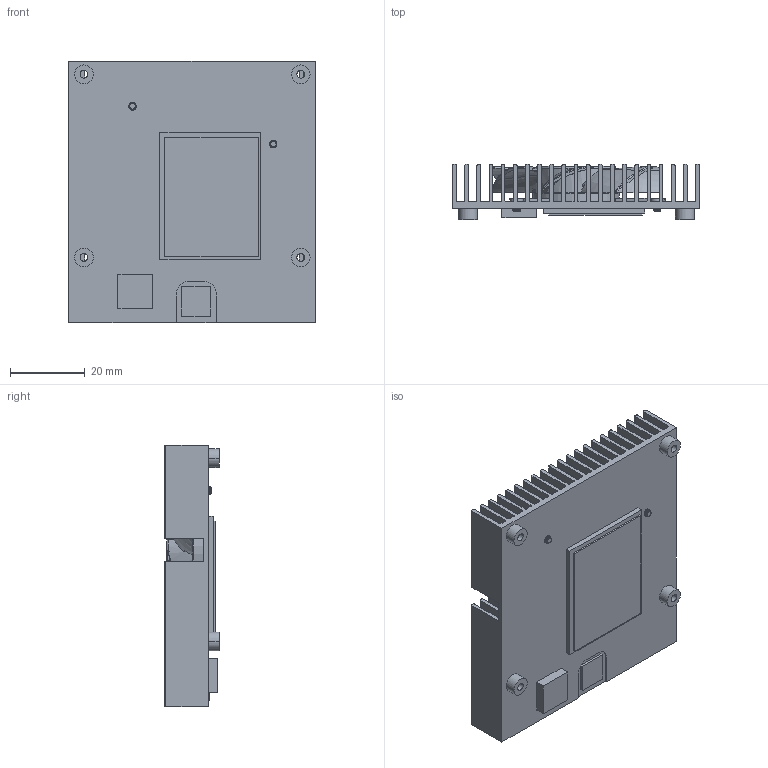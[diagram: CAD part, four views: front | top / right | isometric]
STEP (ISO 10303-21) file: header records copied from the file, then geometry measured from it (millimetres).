
FILE_DESCRIPTION((''),'2;1');
FILE_NAME('UP2_COOLER_FOR1318CPU_20170125_ASM','2017-02-24T',('user'),(''),'PRO/ENGINEER BY PARAMETRIC TECHNOLOGY CORPORATION, 2012480','PRO/ENGINEER BY PARAMETRIC TECHNOLOGY CORPORATION, 2012480','');
FILE_SCHEMA(('CONFIG_CONTROL_DESIGN'));
Length unit declared in the file: millimetre
Products named in the file (11): RH299-025_COOLER_5_3_6; PAD_3_1_2; GAP_PAD1_3_1_1; GAP_PAD2_3_1_1; SEAT_1_1_1; FAN_1_1_1; 5010_ASM_2_ASM_1_ASM_1_ASM; SCREW_411020304_1_1_1; UP2_COOLER_ASM_ASM_4_ASM_4_ASM__ASM; ASM0002_ASM; UP2_COOLER_FOR1318CPU_20170125_ASM
Assembly tree (12 placements, depth 5):
  UP2_COOLER_FOR1318CPU_20170125_ASM
    ASM0002_ASM
      UP2_COOLER_ASM_ASM_4_ASM_4_ASM__ASM
        RH299-025_COOLER_5_3_6
        PAD_3_1_2
        GAP_PAD1_3_1_1
        GAP_PAD2_3_1_1
        5010_ASM_2_ASM_1_ASM_1_ASM
          SEAT_1_1_1
          FAN_1_1_1
        SCREW_411020304_1_1_1  x3
Bounding box: 66 x 14.63 x 70 mm (x, y, z)
Volume: 17380.2 mm3; surface area: 34739.2 mm2
Topology: 8 solids, 11 shells, 791 faces, 2570 edges, 1791 vertices
Faces by surface type: cylinder 341, plane 312, bspline 105, extrusion 21, torus 12
Entity records: 40258 total; most frequent: CARTESIAN_POINT 20900, ORIENTED_EDGE 4568, DIRECTION 3268, EDGE_CURVE 2323, VERTEX_POINT 1635, AXIS2_PLACEMENT_3D 1124, VECTOR 1020, LINE 999
